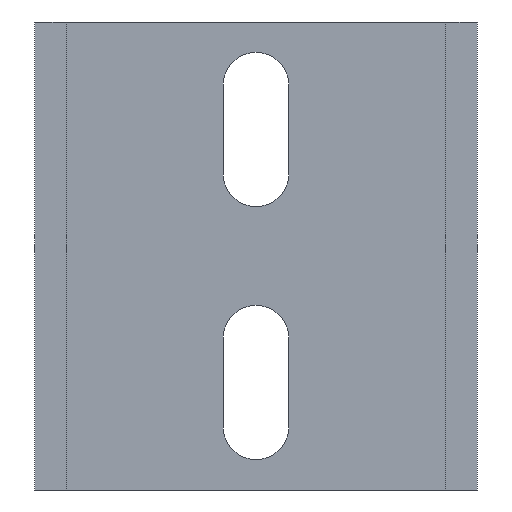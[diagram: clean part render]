
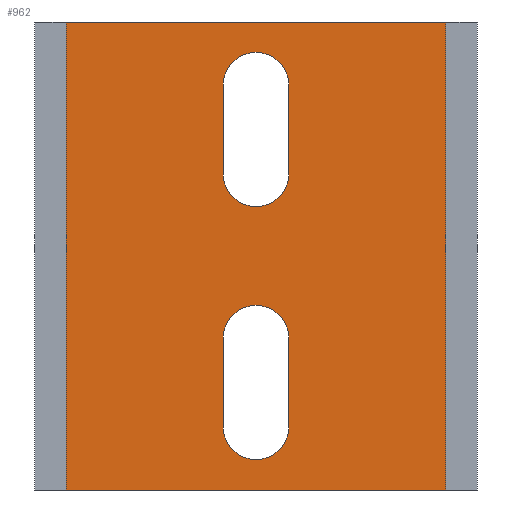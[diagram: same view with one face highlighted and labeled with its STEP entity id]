
A CAD part, front view. The second image highlights one B-rep face of the part: STEP entity #962.
In plain terms, the highlighted planar face has unit normal (0, -1, 0).
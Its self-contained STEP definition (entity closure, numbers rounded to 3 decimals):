
#17=FACE_BOUND('',#123,.T.);
#18=FACE_BOUND('',#124,.T.);
#19=CIRCLE('',#1006,2.6);
#21=CIRCLE('',#1010,2.6);
#27=CIRCLE('',#1019,2.6);
#29=CIRCLE('',#1023,2.6);
#72=FACE_OUTER_BOUND('',#122,.T.);
#122=EDGE_LOOP('',(#775,#776,#777,#778));
#123=EDGE_LOOP('',(#779,#780,#781,#782));
#124=EDGE_LOOP('',(#783,#784,#785,#786));
#143=LINE('',#1324,#265);
#148=LINE('',#1338,#270);
#165=LINE('',#1378,#287);
#185=LINE('',#1425,#307);
#190=LINE('',#1439,#312);
#231=LINE('',#1527,#353);
#232=LINE('',#1530,#354);
#233=LINE('',#1531,#355);
#265=VECTOR('',#1072,10.);
#270=VECTOR('',#1085,10.);
#287=VECTOR('',#1112,10.);
#307=VECTOR('',#1140,10.);
#312=VECTOR('',#1153,10.);
#353=VECTOR('',#1244,10.);
#354=VECTOR('',#1247,10.);
#355=VECTOR('',#1248,10.);
#387=VERTEX_POINT('',#1322);
#388=VERTEX_POINT('',#1323);
#391=VERTEX_POINT('',#1331);
#393=VERTEX_POINT('',#1337);
#410=VERTEX_POINT('',#1375);
#411=VERTEX_POINT('',#1377);
#433=VERTEX_POINT('',#1423);
#434=VERTEX_POINT('',#1424);
#437=VERTEX_POINT('',#1432);
#439=VERTEX_POINT('',#1438);
#461=VERTEX_POINT('',#1525);
#462=VERTEX_POINT('',#1529);
#479=EDGE_CURVE('',#387,#388,#143,.T.);
#483=EDGE_CURVE('',#388,#391,#19,.T.);
#486=EDGE_CURVE('',#391,#393,#148,.T.);
#489=EDGE_CURVE('',#393,#387,#21,.T.);
#506=EDGE_CURVE('',#410,#411,#165,.T.);
#529=EDGE_CURVE('',#433,#434,#185,.T.);
#533=EDGE_CURVE('',#434,#437,#27,.T.);
#536=EDGE_CURVE('',#437,#439,#190,.T.);
#539=EDGE_CURVE('',#439,#433,#29,.T.);
#581=EDGE_CURVE('',#461,#411,#231,.T.);
#582=EDGE_CURVE('',#462,#461,#232,.T.);
#583=EDGE_CURVE('',#462,#410,#233,.T.);
#775=ORIENTED_EDGE('',*,*,#582,.T.);
#776=ORIENTED_EDGE('',*,*,#581,.T.);
#777=ORIENTED_EDGE('',*,*,#506,.F.);
#778=ORIENTED_EDGE('',*,*,#583,.F.);
#779=ORIENTED_EDGE('',*,*,#479,.T.);
#780=ORIENTED_EDGE('',*,*,#483,.T.);
#781=ORIENTED_EDGE('',*,*,#486,.T.);
#782=ORIENTED_EDGE('',*,*,#489,.T.);
#783=ORIENTED_EDGE('',*,*,#529,.T.);
#784=ORIENTED_EDGE('',*,*,#533,.T.);
#785=ORIENTED_EDGE('',*,*,#536,.T.);
#786=ORIENTED_EDGE('',*,*,#539,.T.);
#916=PLANE('',#1047);
#962=ADVANCED_FACE('',(#72,#17,#18),#916,.T.);
#1006=AXIS2_PLACEMENT_3D('',#1332,#1078,#1079);
#1010=AXIS2_PLACEMENT_3D('',#1343,#1090,#1091);
#1019=AXIS2_PLACEMENT_3D('',#1433,#1146,#1147);
#1023=AXIS2_PLACEMENT_3D('',#1444,#1158,#1159);
#1047=AXIS2_PLACEMENT_3D('',#1528,#1245,#1246);
#1072=DIRECTION('',(0.,0.,-1.));
#1078=DIRECTION('center_axis',(0.,1.,0.));
#1079=DIRECTION('ref_axis',(1.,0.,0.));
#1085=DIRECTION('',(0.,0.,1.));
#1090=DIRECTION('center_axis',(0.,1.,0.));
#1091=DIRECTION('ref_axis',(-1.,0.,0.));
#1112=DIRECTION('',(1.,0.,0.));
#1140=DIRECTION('',(0.,0.,-1.));
#1146=DIRECTION('center_axis',(0.,1.,0.));
#1147=DIRECTION('ref_axis',(1.,0.,0.));
#1153=DIRECTION('',(0.,0.,1.));
#1158=DIRECTION('center_axis',(0.,1.,0.));
#1159=DIRECTION('ref_axis',(-1.,0.,0.));
#1244=DIRECTION('',(0.,0.,1.));
#1245=DIRECTION('center_axis',(0.,-1.,0.));
#1246=DIRECTION('ref_axis',(1.,0.,0.));
#1247=DIRECTION('',(1.,0.,0.));
#1248=DIRECTION('',(0.,0.,1.));
#1322=CARTESIAN_POINT('',(2.6,0.,32.));
#1323=CARTESIAN_POINT('',(2.6,0.,25.));
#1324=CARTESIAN_POINT('',(2.6,0.,12.5));
#1331=CARTESIAN_POINT('',(-2.6,0.,25.));
#1332=CARTESIAN_POINT('Origin',(0.,0.,
25.));
#1337=CARTESIAN_POINT('',(-2.6,0.,32.));
#1338=CARTESIAN_POINT('',(-2.6,0.,16.));
#1343=CARTESIAN_POINT('Origin',(0.,0.,
32.));
#1375=CARTESIAN_POINT('',(-15.,0.,37.));
#1377=CARTESIAN_POINT('',(15.,0.,37.));
#1378=CARTESIAN_POINT('',(-15.,0.,37.));
#1423=CARTESIAN_POINT('',(2.6,0.,12.));
#1424=CARTESIAN_POINT('',(2.6,0.,5.));
#1425=CARTESIAN_POINT('',(2.6,0.,2.5));
#1432=CARTESIAN_POINT('',(-2.6,0.,5.));
#1433=CARTESIAN_POINT('Origin',(0.,0.,
5.));
#1438=CARTESIAN_POINT('',(-2.6,0.,12.));
#1439=CARTESIAN_POINT('',(-2.6,0.,6.));
#1444=CARTESIAN_POINT('Origin',(0.,0.,
12.));
#1525=CARTESIAN_POINT('',(15.,0.,0.));
#1527=CARTESIAN_POINT('',(15.,0.,0.));
#1528=CARTESIAN_POINT('Origin',(-15.,0.,0.));
#1529=CARTESIAN_POINT('',(-15.,0.,0.));
#1530=CARTESIAN_POINT('',(-15.,0.,0.));
#1531=CARTESIAN_POINT('',(-15.,0.,0.));
